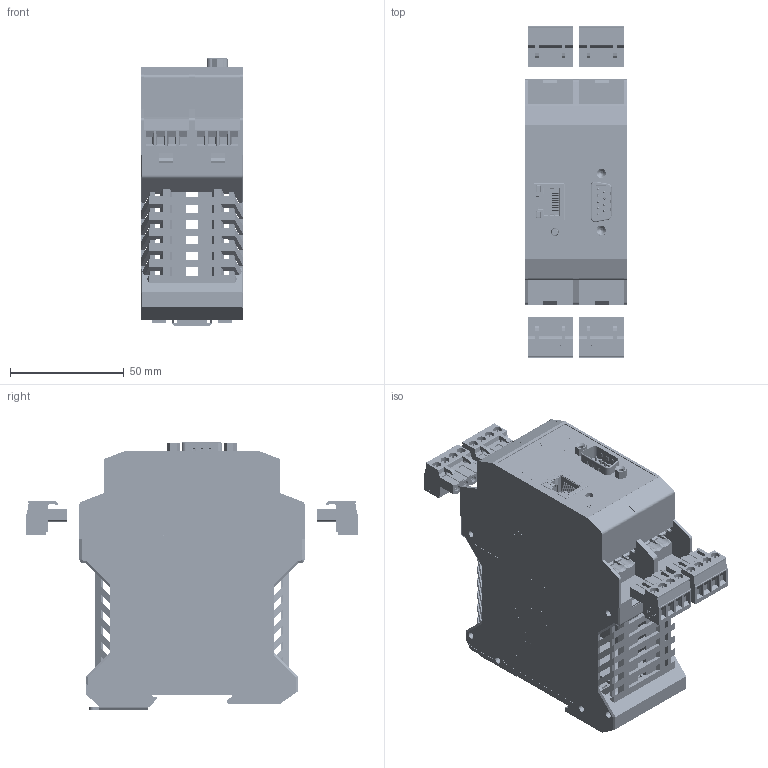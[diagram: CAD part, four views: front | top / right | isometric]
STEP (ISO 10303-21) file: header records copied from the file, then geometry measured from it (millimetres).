
FILE_DESCRIPTION(('STEP AP203'), '1');
FILE_NAME('鍛鍧 BCE-2', '', ('UNSPECIFIED'), ('UNSPECIFIED'), 'ASCON STEP Converter 1.3', 'ASCON Math Kernel', '');
FILE_SCHEMA(('CONFIG_CONTROL_DESIGN'));
Length unit declared in the file: millimetre
Products named in the file (41): MSTBT_2.5-4-ST; 扻豵鵨; ME_Verriegelungshaken_H.Select__00446697.1.1.1; ME_22.5_UTL_H_H.Select__00392903; ME_22.5_UTR_H_H.Select__00393036; ME_45_UTM_H.Select__00294716; Fussriegel_17.5_L30_H.Select__00315466; MSTBO_2_5_4-G1L_H.Select__00364411; MSTBO_2_5_4-G1R_H.Select__00364505; ч蜱齁罻; ME_B-22.5_MSTBO_H.Select__00296524; SWT-3; 1; 2; 3; 4; 5; 71069939_1; 71069939_2; 71069939_3; 71069939_4; 71069939_5; 71069939_6; 71069939_7; 71069939_8; 71069939_9; 71069939_10; 71069939_11; 71069939_12; 71069939_13; 71069939_14; 71069939_15; 71069939_16; 71069939_17
Assembly tree (52 placements, depth 5):
  (unnamed)
    MSTBT_2.5-4-ST  x4
      MSTBT_2.5-4-ST
    (unnamed)
      (unnamed)
        扻豵鵨
          ME_Verriegelungshaken_H.Select__00446697.1.1.1  x4
          ME_22.5_UTL_H_H.Select__00392903
          ME_22.5_UTR_H_H.Select__00393036
          ME_45_UTM_H.Select__00294716
          Fussriegel_17.5_L30_H.Select__00315466
      (unnamed)
        MSTBO_2_5_4-G1L_H.Select__00364411  x2
        MSTBO_2_5_4-G1R_H.Select__00364505  x2
        ч蜱齁罻  x4
          ME_B-22.5_MSTBO_H.Select__00296524
        SWT-3
        (unnamed)
          1
          2
          3
          4
          5
        (unnamed)
          71069939_1
          71069939_2
          71069939_3
          71069939_4
          71069939_5
          71069939_6
          71069939_7
          71069939_8
          71069939_9
          71069939_10
          71069939_11
          71069939_12
          71069939_13
          71069939_14
          71069939_15
          71069939_16
          71069939_17  x2
Bounding box: 45.2 x 145.9 x 117.4 mm (x, y, z)
Volume: 108063.6 mm3; surface area: 140703.9 mm2
Topology: 47 solids, 49 shells, 21727 faces, 61518 edges, 40752 vertices
Faces by surface type: plane 13086, cylinder 8280, extrusion 250, cone 44, torus 34, sphere 23, bspline 10
Full cylindrical faces by diameter (mm): 0.722 x3, 0.762 x3, 0.9 x4, 0.95 x4, 1 x18, 1.181 x1, 1.2 x1, 1.35 x4, 1.353 x16, 1.4 x32, 1.7 x1, 2 x12, 2.013 x4, 2.1 x3, 2.4 x1, 2.5 x2, 2.8 x32, 3 x14, 3.5 x2, 3.783 x16, 3.8 x9, 4 x16, 5.05 x1
Entity records: 772467 total; most frequent: CARTESIAN_POINT 113460, ORIENTED_EDGE 107066, DIRECTION 106427, EDGE_CURVE 53533, VECTOR 37361, LINE 37222, VERTEX_POINT 35633, AXIS2_PLACEMENT_3D 34533
